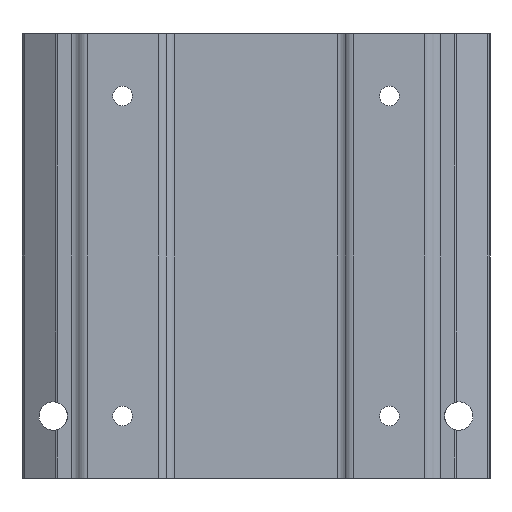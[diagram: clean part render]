
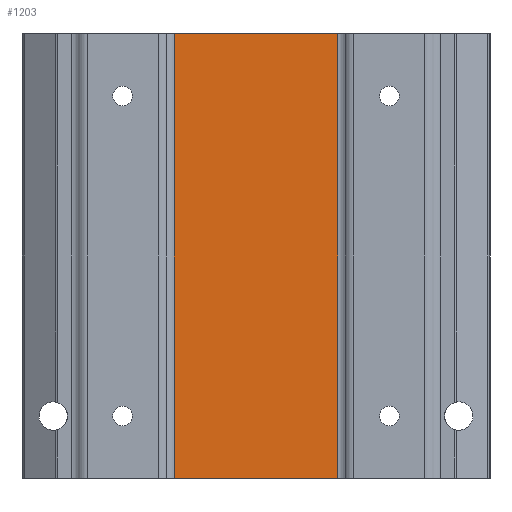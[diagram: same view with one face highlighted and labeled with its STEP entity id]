
A CAD part, front view. The second image highlights one B-rep face of the part: STEP entity #1203.
In plain terms, the highlighted planar face has unit normal (0, -1, 0).
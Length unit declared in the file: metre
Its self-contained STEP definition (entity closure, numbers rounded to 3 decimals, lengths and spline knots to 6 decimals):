
#24=PLANE('',#1298);
#72=LINE('',#1924,#166);
#73=LINE('',#1927,#167);
#74=LINE('',#1929,#168);
#75=LINE('',#1931,#169);
#166=VECTOR('',#1497,1.);
#167=VECTOR('',#1498,1.);
#168=VECTOR('',#1499,1.);
#169=VECTOR('',#1500,1.);
#368=ORIENTED_EDGE('',*,*,#726,.T.);
#369=ORIENTED_EDGE('',*,*,#727,.T.);
#370=ORIENTED_EDGE('',*,*,#728,.F.);
#371=ORIENTED_EDGE('',*,*,#729,.F.);
#726=EDGE_CURVE('',#900,#901,#72,.T.);
#727=EDGE_CURVE('',#901,#902,#73,.T.);
#728=EDGE_CURVE('',#903,#902,#74,.T.);
#729=EDGE_CURVE('',#900,#903,#75,.T.);
#900=VERTEX_POINT('',#1925);
#901=VERTEX_POINT('',#1926);
#902=VERTEX_POINT('',#1928);
#903=VERTEX_POINT('',#1930);
#1010=EDGE_LOOP('',(#368,#369,#370,#371));
#1090=FACE_BOUND('',#1010,.T.);
#1203=ADVANCED_FACE('',(#1090),#24,.F.);
#1298=AXIS2_PLACEMENT_3D('',#1923,#1495,#1496);
#1495=DIRECTION('',(0.,1.,0.));
#1496=DIRECTION('',(0.,0.,1.));
#1497=DIRECTION('',(0.,0.,-1.));
#1498=DIRECTION('',(1.,0.,0.));
#1499=DIRECTION('',(0.,0.,-1.));
#1500=DIRECTION('',(1.,0.,0.));
#1923=CARTESIAN_POINT('',(0.,0.,0.125));
#1924=CARTESIAN_POINT('',(-0.023028,0.,0.154013));
#1925=CARTESIAN_POINT('',(-0.023028,0.,0.125));
#1926=CARTESIAN_POINT('',(-0.023028,0.,0.));
#1927=CARTESIAN_POINT('',(0.,0.,0.));
#1928=CARTESIAN_POINT('',(0.023028,0.,0.));
#1929=CARTESIAN_POINT('',(0.023028,0.,0.154013));
#1930=CARTESIAN_POINT('',(0.023028,0.,0.125));
#1931=CARTESIAN_POINT('',(0.,0.,0.125));
